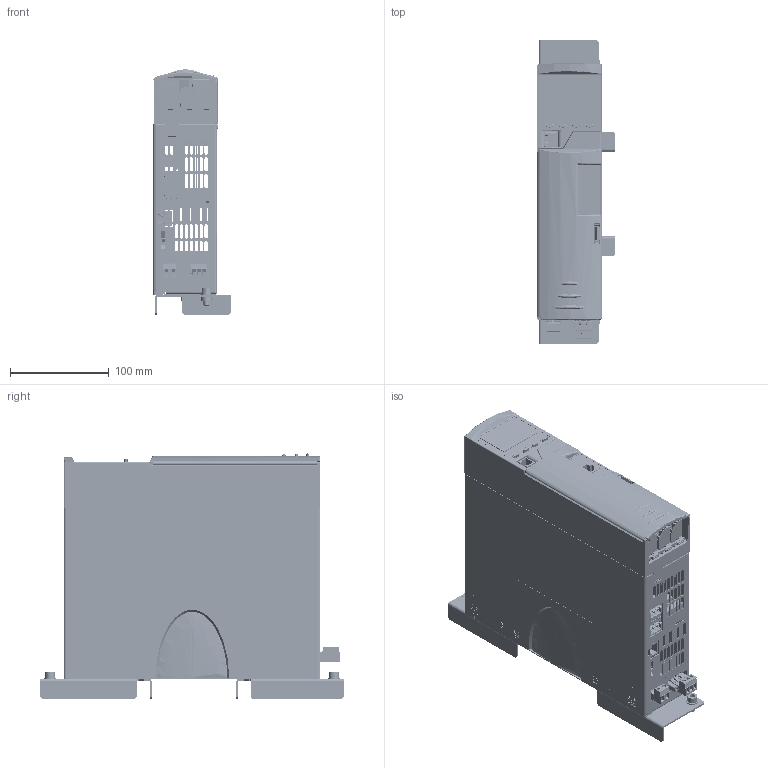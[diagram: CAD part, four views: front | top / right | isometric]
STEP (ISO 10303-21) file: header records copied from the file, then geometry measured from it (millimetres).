
FILE_DESCRIPTION((''),'2;1');
FILE_NAME('EPOWER_DRIVER_100A_IGES2','2012-01-03T',('chrisloe'),(''),'PRO/ENGINEER BY PARAMETRIC TECHNOLOGY CORPORATION, 2010180','PRO/ENGINEER BY PARAMETRIC TECHNOLOGY CORPORATION, 2010180','');
FILE_SCHEMA(('CONFIG_CONTROL_DESIGN'));
Products named in the file (1): EPOWER_DRIVER_100A_IGES2
Bounding box: 79.3 x 308 x 248.9 mm (x, y, z)
Volume: 599424.5 mm3; surface area: 642328.5 mm2
Topology: 12 solids, 59 shells, 16711 faces, 43016 edges, 27769 vertices
Faces by surface type: plane 12597, cylinder 3562, bspline 171, cone 163, torus 87, sphere 82, extrusion 48, revolution 1
Entity records: 525034 total; most frequent: CARTESIAN_POINT 115697, ORIENTED_EDGE 85826, DIRECTION 81094, EDGE_CURVE 42955, VECTOR 33265, LINE 33217, VERTEX_POINT 27769, AXIS2_PLACEMENT_3D 23914
